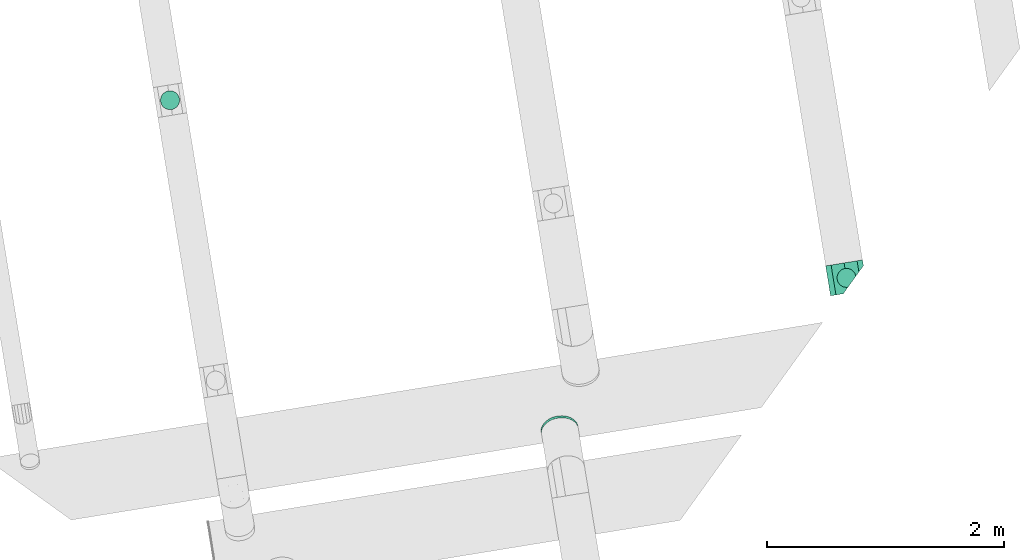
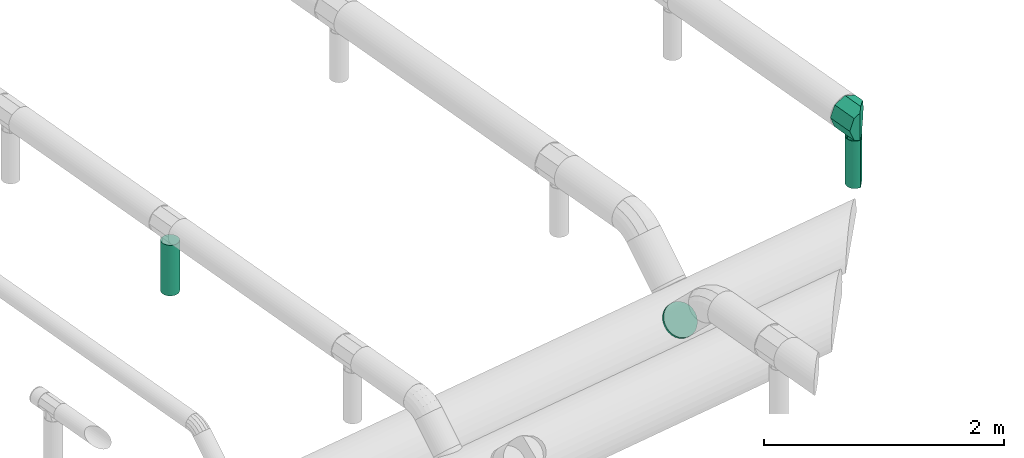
# One storey, part 12 of 15: 2 flow fittings, 2 flow segments.
"""IFC2X3 building model written with IfcOpenShell, lengths in millimetres."""

from ifc_helpers import new_model, entity, si_unit, converted_unit, derived_unit, direction, frame, origin, origin_with_axes, place, context, subcontext, project, spatial, faceted_brep, source, transform, mapped, material, type_object, element, save


model = new_model("IFC2X3")

# Units and contexts
model_context = context("Model", 3, precision=0.01, world=origin(), true_north=direction((6.12323399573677e-17, 1.0)))
plan_context = context("Plan", 3, precision=1e-05, world=origin_with_axes())
body_context = subcontext(model_context, "Body", "Model", "MODEL_VIEW")
ifc_project = project(units=[converted_unit("PLANEANGLEUNIT", "DEGREE", entity("IfcPositiveLengthMeasure", 0.0174532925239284), si_unit("PLANEANGLEUNIT", "RADIAN"), dimensions=[0, 0, 0, 0, 0, 0, 0]), si_unit("AREAUNIT", "SQUARE_METRE"), si_unit("LENGTHUNIT", "METRE", prefix="MILLI"), si_unit("MASSUNIT", "GRAM", prefix="KILO"), si_unit("POWERUNIT", "WATT"), si_unit("PRESSUREUNIT", "PASCAL", prefix="KILO"), si_unit("FORCEUNIT", "NEWTON", prefix="KILO"), si_unit("ELECTRICVOLTAGEUNIT", "VOLT"), si_unit("ELECTRICCURRENTUNIT", "AMPERE"), si_unit("THERMODYNAMICTEMPERATUREUNIT", "DEGREE_CELSIUS"), si_unit("TIMEUNIT", "SECOND"), si_unit("VOLUMEUNIT", "CUBIC_METRE"), derived_unit("LINEARVELOCITYUNIT", [(si_unit("LENGTHUNIT", "METRE"), 1), (si_unit("TIMEUNIT", "SECOND"), -1)]), derived_unit("VOLUMETRICFLOWRATEUNIT", [(si_unit("VOLUMEUNIT", "CUBIC_METRE"), 1), (si_unit("TIMEUNIT", "SECOND"), -1)]), derived_unit("THERMALTRANSMITTANCEUNIT", [(si_unit("POWERUNIT", "WATT"), 1), (si_unit("THERMODYNAMICTEMPERATUREUNIT", "KELVIN"), -1), (si_unit("AREAUNIT", "SQUARE_METRE"), -1)]), derived_unit("SOUNDPRESSUREUNIT", [(si_unit("PRESSUREUNIT", "PASCAL"), 1)])], contexts=[model_context, plan_context])

# Site, building, storey
site_placement = place(None, frame((5.09380697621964e-08, 5.80416781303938e-08, 0.0), z_axis=(0.0, 0.0, 1.0), x_axis=(-0.160806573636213, 0.986985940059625, 0.0)))
site = spatial("IfcSite", under=ifc_project, at=site_placement, Name="Default", CompositionType="ELEMENT")
building_placement = place(site_placement, frame((0.0, 0.0, 0.0), z_axis=(0.0, 0.0, 1.0), x_axis=(1.0, -2.77555756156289e-17, 0.0)))
building = spatial("IfcBuilding", under=site, at=building_placement, Name="Bygning (endres i Project Information)", CompositionType="ELEMENT")
storey_placement = place(building_placement, frame((0.0, 0.0, 51360.0000000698), z_axis=(0.0, 0.0, 1.0), x_axis=(1.0, -2.77555756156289e-17, 0.0)))
storey = spatial("IfcBuildingStorey", under=building, at=storey_placement, Name="H01-Nivå D+0,36", CompositionType="ELEMENT", Elevation=51360.0000000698)

# Flow fittings
ifc_material_1 = material(Name="3601.001 Tilluft")
duct_fitting_type_1 = type_object("IfcDuctFittingType", Name="magicirc_tapoutlet_001:magicirc_tapoutlet_001", PredefinedType="NOTDEFINED", material=ifc_material_1)
shared_shape = source(origin(), body_context, "Body", "Brep", [
    faceted_brep([(-6.09600000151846, -40.7639996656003, -152.133317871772), (-6.09600000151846, -78.7500001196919, -136.399001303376), (-6.09600000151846, -111.369318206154, -111.369318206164), (-6.09600000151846, -136.399001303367, -78.7500001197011), (-6.09600000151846, -152.133317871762, -40.7639996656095), (-6.09600000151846, -157.500000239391, 0.0), (-6.09600000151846, -152.133317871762, 40.7639996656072), (-6.09600000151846, -136.399001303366, 78.7500001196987), (-6.09600000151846, -111.369318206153, 111.369318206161), (-6.09600000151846, -78.7500001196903, 136.399001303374), (-6.09600000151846, -40.7639996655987, 152.133317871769), (-6.09600000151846, 0.0, 157.500000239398), (-6.09600000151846, 40.7639996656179, 152.133317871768), (-6.09600000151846, 78.7500001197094, 136.399001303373), (-6.09600000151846, 111.369318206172, 111.36931820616), (-6.09600000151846, 136.399001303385, 78.750000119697), (-6.09600000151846, 152.13331787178, 40.7639996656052), (-6.09600000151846, 157.50000023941, 0.0), (-6.09600000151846, 152.133317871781, -40.7639996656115), (-6.09600000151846, 136.399001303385, -78.7500001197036), (-6.09600000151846, 111.369318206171, -111.369318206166), (-6.09600000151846, 78.7500001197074, -136.399001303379), (-6.09600000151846, 40.7639996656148, -152.133317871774), (-6.09600000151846, 0.0, -157.500000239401), (0.0, -40.7639996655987, 152.133317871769), (20.0, -40.7639996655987, 152.133317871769), (20.0, 0.0, 157.500000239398), (0.0, 0.0, 157.500000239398), (0.0, -78.7500001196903, 136.399001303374), (20.0, -78.7500001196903, 136.399001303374), (0.0, -111.369318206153, 111.369318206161), (20.0, -111.369318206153, 111.369318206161), (0.0, -152.133317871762, 40.7639996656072), (20.0, -152.133317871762, 40.7639996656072), (20.0, -136.399001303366, 78.7500001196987), (0.0, -136.399001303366, 78.7500001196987), (0.0, -157.500000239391, 0.0), (20.0, -157.500000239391, 0.0), (0.0, -152.133317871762, -40.7639996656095), (20.0, -152.133317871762, -40.7639996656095), (0.0, -136.399001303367, -78.7500001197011), (20.0, -136.399001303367, -78.7500001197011), (0.0, -111.369318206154, -111.369318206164), (20.0, -111.369318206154, -111.369318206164), (0.0, 0.0, -157.500000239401), (20.0, 0.0, -157.500000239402), (20.0, -40.7639996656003, -152.133317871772), (0.0, -40.7639996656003, -152.133317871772), (20.0, -78.7500001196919, -136.399001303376), (0.0, -78.7500001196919, -136.399001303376), (0.0, 40.7639996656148, -152.133317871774), (20.0, 40.7639996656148, -152.133317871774), (0.0, 78.7500001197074, -136.399001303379), (20.0, 78.7500001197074, -136.399001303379), (0.0, 111.369318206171, -111.369318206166), (20.0, 111.369318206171, -111.369318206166), (0.0, 152.133317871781, -40.7639996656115), (20.0, 152.133317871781, -40.7639996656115), (20.0, 136.399001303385, -78.7500001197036), (0.0, 136.399001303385, -78.7500001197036), (0.0, 157.50000023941, 0.0), (20.0, 157.500000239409, 0.0), (0.0, 152.13331787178, 40.7639996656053), (20.0, 152.13331787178, 40.7639996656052), (0.0, 136.399001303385, 78.750000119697), (20.0, 136.399001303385, 78.750000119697), (0.0, 111.369318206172, 111.36931820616), (20.0, 111.369318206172, 111.36931820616), (0.0, 40.7639996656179, 152.133317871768), (20.0, 40.7639996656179, 152.133317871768), (20.0, 78.7500001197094, 136.399001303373), (0.0, 78.7500001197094, 136.399001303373)], [[[0, 1, 2, 3, 4, 5, 6, 7, 8, 9, 10, 11, 12, 13, 14, 15, 16, 17, 18, 19, 20, 21, 22, 23]], [[24, 25, 26, 27, 11, 10]], [[28, 29, 25, 24, 10, 9]], [[8, 30, 31, 29, 28, 9]], [[32, 33, 34, 35, 7, 6]], [[36, 37, 33, 32, 6, 5]], [[7, 35, 34, 31, 30, 8]], [[38, 39, 37, 36, 5, 4]], [[40, 41, 39, 38, 4, 3]], [[2, 42, 43, 41, 40, 3]], [[23, 44, 45, 46, 47, 0]], [[1, 0, 47, 46, 48, 49]], [[49, 48, 43, 42, 2, 1]], [[50, 51, 45, 44, 23, 22]], [[52, 53, 51, 50, 22, 21]], [[20, 54, 55, 53, 52, 21]], [[56, 57, 58, 59, 19, 18]], [[60, 61, 57, 56, 18, 17]], [[19, 59, 58, 55, 54, 20]], [[62, 63, 61, 60, 17, 16]], [[64, 65, 63, 62, 16, 15]], [[14, 66, 67, 65, 64, 15]], [[68, 69, 70, 71, 13, 12]], [[27, 26, 69, 68, 12, 11]], [[13, 71, 70, 67, 66, 14]], [[45, 51, 53, 55, 58, 57, 61, 63, 65, 67, 70, 69, 26, 25, 29, 31, 34, 33, 37, 39, 41, 43, 48, 46]]]),
    faceted_brep([(20.0, 0.0, -157.500000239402), (20.0, 40.7639996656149, -152.133317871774), (20.0, 78.7500001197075, -136.399001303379), (20.0, 111.369318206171, -111.369318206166), (20.0, 136.399001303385, -78.7500001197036), (20.0, 152.133317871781, -40.7639996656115), (20.0, 157.500000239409, 0.0), (20.0, 152.13331787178, 40.7639996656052), (20.0, 136.399001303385, 78.750000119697), (20.0, 111.369318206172, 111.36931820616), (20.0, 78.7500001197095, 136.399001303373), (20.0, 40.763999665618, 152.133317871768), (20.0, 0.0, 157.500000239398), (20.0, -40.7639996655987, 152.133317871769), (20.0, -78.7500001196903, 136.399001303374), (20.0, -111.369318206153, 111.369318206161), (20.0, -136.399001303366, 78.7500001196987), (20.0, -152.133317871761, 40.7639996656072), (20.0, -157.500000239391, 0.0), (20.0, -152.133317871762, -40.7639996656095), (20.0, -136.399001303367, -78.7500001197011), (20.0, -111.369318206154, -111.369318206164), (20.0, -78.7500001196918, -136.399001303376), (20.0, -40.7639996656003, -152.133317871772), (0.0, 0.0, 157.500000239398), (-6.09600000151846, 0.0, 157.500000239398), (-6.09600000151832, -40.7639996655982, 152.133317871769), (0.0, -40.7639996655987, 152.133317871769), (-6.09600000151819, -78.7500001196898, 136.399001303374), (0.0, -78.7500001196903, 136.399001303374), (0.0, -111.369318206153, 111.369318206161), (-6.09600000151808, -111.369318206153, 111.369318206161), (0.0, -136.399001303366, 78.7500001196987), (-6.096000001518, -136.399001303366, 78.7500001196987), (-6.09600000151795, -152.133317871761, 40.7639996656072), (0.0, -152.133317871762, 40.7639996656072), (-6.09600000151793, -157.50000023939, 0.0), (0.0, -157.500000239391, 0.0), (-6.09600000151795, -152.133317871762, -40.7639996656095), (0.0, -152.133317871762, -40.7639996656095), (-6.096000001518, -136.399001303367, -78.7500001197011), (0.0, -136.399001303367, -78.7500001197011), (0.0, -111.369318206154, -111.369318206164), (-6.09600000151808, -111.369318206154, -111.369318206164), (0.0, 0.0, -157.500000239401), (0.0, -40.7639996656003, -152.133317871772), (-6.09600000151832, -40.7639996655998, -152.133317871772), (-6.09600000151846, 0.0, -157.500000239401), (0.0, -78.7500001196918, -136.399001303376), (-6.09600000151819, -78.7500001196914, -136.399001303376), (-6.09600000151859, 40.7639996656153, -152.133317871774), (0.0, 40.7639996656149, -152.133317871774), (-6.09600000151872, 78.7500001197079, -136.399001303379), (0.0, 78.7500001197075, -136.399001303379), (0.0, 111.369318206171, -111.369318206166), (-6.09600000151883, 111.369318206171, -111.369318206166), (0.0, 136.399001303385, -78.7500001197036), (-6.09600000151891, 136.399001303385, -78.7500001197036), (-6.09600000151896, 152.133317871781, -40.7639996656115), (0.0, 152.133317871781, -40.7639996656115), (-6.09600000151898, 157.500000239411, 0.0), (0.0, 157.50000023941, 0.0), (-6.09600000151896, 152.13331787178, 40.7639996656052), (0.0, 152.13331787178, 40.7639996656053), (-6.09600000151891, 136.399001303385, 78.750000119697), (0.0, 136.399001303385, 78.750000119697), (0.0, 111.369318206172, 111.36931820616), (-6.09600000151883, 111.369318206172, 111.36931820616), (0.0, 78.7500001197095, 136.399001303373), (-6.09600000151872, 78.7500001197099, 136.399001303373), (-6.09600000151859, 40.7639996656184, 152.133317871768), (0.0, 40.7639996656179, 152.133317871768)], [[[0, 1, 2, 3, 4, 5, 6, 7, 8, 9, 10, 11, 12, 13, 14, 15, 16, 17, 18, 19, 20, 21, 22, 23]], [[13, 12, 24, 25, 26, 27]], [[14, 13, 27, 26, 28, 29]], [[30, 15, 14, 29, 28, 31]], [[17, 16, 32, 33, 34, 35]], [[18, 17, 35, 34, 36, 37]], [[32, 16, 15, 30, 31, 33]], [[19, 18, 37, 36, 38, 39]], [[20, 19, 39, 38, 40, 41]], [[42, 21, 20, 41, 40, 43]], [[44, 0, 23, 45, 46, 47]], [[48, 49, 46, 45, 23, 22]], [[22, 21, 42, 43, 49, 48]], [[1, 0, 44, 47, 50, 51]], [[2, 1, 51, 50, 52, 53]], [[54, 3, 2, 53, 52, 55]], [[5, 4, 56, 57, 58, 59]], [[6, 5, 59, 58, 60, 61]], [[56, 4, 3, 54, 55, 57]], [[7, 6, 61, 60, 62, 63]], [[8, 7, 63, 62, 64, 65]], [[66, 9, 8, 65, 64, 67]], [[11, 10, 68, 69, 70, 71]], [[12, 11, 71, 70, 25, 24]], [[68, 10, 9, 66, 67, 69]], [[46, 49, 43, 40, 38, 36, 34, 33, 31, 28, 26, 25, 70, 69, 67, 64, 62, 60, 58, 57, 55, 52, 50, 47]]]),
    faceted_brep([(-6.09600000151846, -40.7639996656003, -152.133317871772), (-6.09600000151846, -78.7500001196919, -136.399001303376), (-6.09600000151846, -111.369318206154, -111.369318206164), (-6.09600000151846, -136.399001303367, -78.7500001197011), (-6.09600000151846, -152.133317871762, -40.7639996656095), (-6.09600000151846, -157.500000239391, 0.0), (-6.09600000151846, -152.133317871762, 40.7639996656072), (-6.09600000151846, -136.399001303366, 78.7500001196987), (-6.09600000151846, -111.369318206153, 111.369318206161), (-6.09600000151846, -78.7500001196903, 136.399001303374), (-6.09600000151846, -40.7639996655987, 152.133317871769), (-6.09600000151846, 0.0, 157.500000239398), (-6.09600000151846, 40.7639996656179, 152.133317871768), (-6.09600000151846, 78.7500001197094, 136.399001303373), (-6.09600000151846, 111.369318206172, 111.36931820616), (-6.09600000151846, 136.399001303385, 78.750000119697), (-6.09600000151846, 152.13331787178, 40.7639996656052), (-6.09600000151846, 157.50000023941, 0.0), (-6.09600000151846, 152.133317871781, -40.7639996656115), (-6.09600000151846, 136.399001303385, -78.7500001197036), (-6.09600000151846, 111.369318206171, -111.369318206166), (-6.09600000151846, 78.7500001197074, -136.399001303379), (-6.09600000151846, 40.7639996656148, -152.133317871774), (-6.09600000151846, 0.0, -157.500000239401), (0.0, -40.7639996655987, 152.133317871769), (20.0, -40.7639996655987, 152.133317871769), (20.0, 0.0, 157.500000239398), (0.0, 0.0, 157.500000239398), (0.0, -78.7500001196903, 136.399001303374), (20.0, -78.7500001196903, 136.399001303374), (0.0, -111.369318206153, 111.369318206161), (20.0, -111.369318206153, 111.369318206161), (0.0, -152.133317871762, 40.7639996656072), (20.0, -152.133317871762, 40.7639996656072), (20.0, -136.399001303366, 78.7500001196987), (0.0, -136.399001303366, 78.7500001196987), (0.0, -157.500000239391, 0.0), (20.0, -157.500000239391, 0.0), (0.0, -152.133317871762, -40.7639996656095), (20.0, -152.133317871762, -40.7639996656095), (0.0, -136.399001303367, -78.7500001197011), (20.0, -136.399001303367, -78.7500001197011), (0.0, -111.369318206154, -111.369318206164), (20.0, -111.369318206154, -111.369318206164), (0.0, 0.0, -157.500000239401), (20.0, 0.0, -157.500000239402), (20.0, -40.7639996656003, -152.133317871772), (0.0, -40.7639996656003, -152.133317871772), (20.0, -78.7500001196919, -136.399001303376), (0.0, -78.7500001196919, -136.399001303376), (0.0, 40.7639996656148, -152.133317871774), (20.0, 40.7639996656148, -152.133317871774), (0.0, 78.7500001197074, -136.399001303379), (20.0, 78.7500001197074, -136.399001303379), (0.0, 111.369318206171, -111.369318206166), (20.0, 111.369318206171, -111.369318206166), (0.0, 152.133317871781, -40.7639996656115), (20.0, 152.133317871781, -40.7639996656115), (20.0, 136.399001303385, -78.7500001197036), (0.0, 136.399001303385, -78.7500001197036), (0.0, 157.50000023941, 0.0), (20.0, 157.500000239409, 0.0), (0.0, 152.13331787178, 40.7639996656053), (20.0, 152.13331787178, 40.7639996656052), (0.0, 136.399001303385, 78.750000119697), (20.0, 136.399001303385, 78.750000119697), (0.0, 111.369318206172, 111.36931820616), (20.0, 111.369318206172, 111.36931820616), (0.0, 40.7639996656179, 152.133317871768), (20.0, 40.7639996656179, 152.133317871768), (20.0, 78.7500001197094, 136.399001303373), (0.0, 78.7500001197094, 136.399001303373)], [[[0, 1, 2, 3, 4, 5, 6, 7, 8, 9, 10, 11, 12, 13, 14, 15, 16, 17, 18, 19, 20, 21, 22, 23]], [[24, 25, 26, 27, 11, 10]], [[28, 29, 25, 24, 10, 9]], [[8, 30, 31, 29, 28, 9]], [[32, 33, 34, 35, 7, 6]], [[36, 37, 33, 32, 6, 5]], [[7, 35, 34, 31, 30, 8]], [[38, 39, 37, 36, 5, 4]], [[40, 41, 39, 38, 4, 3]], [[2, 42, 43, 41, 40, 3]], [[23, 44, 45, 46, 47, 0]], [[1, 0, 47, 46, 48, 49]], [[49, 48, 43, 42, 2, 1]], [[50, 51, 45, 44, 23, 22]], [[52, 53, 51, 50, 22, 21]], [[20, 54, 55, 53, 52, 21]], [[56, 57, 58, 59, 19, 18]], [[60, 61, 57, 56, 18, 17]], [[19, 59, 58, 55, 54, 20]], [[62, 63, 61, 60, 17, 16]], [[64, 65, 63, 62, 16, 15]], [[14, 66, 67, 65, 64, 15]], [[68, 69, 70, 71, 13, 12]], [[27, 26, 69, 68, 12, 11]], [[13, 71, 70, 67, 66, 14]], [[45, 51, 53, 55, 58, 57, 61, 63, 65, 67, 70, 69, 26, 25, 29, 31, 34, 33, 37, 39, 41, 43, 48, 46]]]),
])
flow_fitting_1_placement = place(storey_placement, frame((994937.543042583, -342925.651094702, 3372.738656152), z_axis=(-0.707106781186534, 1.96261557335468e-17, -0.707106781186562), x_axis=(-0.707106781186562, 1.38777878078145e-17, 0.707106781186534)))
element("IfcFlowFitting", 1, at=flow_fitting_1_placement, inside=storey, type_object=duct_fitting_type_1, material=ifc_material_1, Name="magicirc_tapoutlet_001:magicirc_tapoutlet_001", ObjectType="magicirc_tapoutlet_001:magicirc_tapoutlet_001", context=body_context, shape_type="MappedRepresentation", body=[
    mapped(shared_shape, transform((0.0, 0.0, 0.0), scale=1.0)),
])
ifc_material_2 = material(Name="DF_Material1")
duct_fitting_type_2 = type_object("IfcDuctFittingType", Name="Lindab TCPU:TCPU", PredefinedType="NOTDEFINED", material=ifc_material_2)
flow_fitting_2_placement = place(storey_placement, frame((995812.558907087, -345524.100723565, 3804.29489743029), z_axis=(2.77555756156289e-17, 1.0, 0.0), x_axis=(-1.0, 2.77555756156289e-17, 0.0)))
element("IfcFlowFitting", 2, at=flow_fitting_2_placement, inside=storey, type_object=duct_fitting_type_2, Name="Lindab TCPU:TCPU", ObjectType="Lindab TCPU:TCPU", context=body_context, shape_type="Brep", body=[
    faceted_brep([(79.7802037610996, -182.0, 0.530635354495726), (-0.530635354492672, -182.0, -79.7802037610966), (-56.568542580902, -182.0, -56.5685425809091), (-80.0000001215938, -182.0, 0.0), (-56.5685425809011, -182.0, 56.5685425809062), (0.0, -182.0, 80.0000001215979), (56.5685425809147, -182.0, 56.5685425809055), (-61.1652823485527, -148.820166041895, 51.5636330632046), (0.0, -135.66963571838, 80.0000001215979), (-80.0000001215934, -157.500000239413, 0.0), (-51.4607662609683, -145.101552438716, -61.2518534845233), (-0.550041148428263, -181.60560897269, -79.7996095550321), (-0.550041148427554, -135.770449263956, -79.7996095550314), (79.7802037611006, -157.729819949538, 0.530635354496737), (79.7615039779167, -157.396385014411, 0.511935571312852), (51.4669231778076, -145.103736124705, 61.2466802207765), (-128.0, -134.434659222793, -55.6846591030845), (-128.0, -111.369318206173, -111.369318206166), (-128.0, 0.0, -157.500000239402), (-128.0, 111.369318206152, -111.369318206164), (-128.0, 157.500000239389, 0.0), (-128.0, 111.369318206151, 111.369318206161), (-128.0, 0.0, 157.500000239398), (-128.0, -111.369318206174, 111.36931820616), (-128.0, -134.434659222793, 55.6846591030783), (-128.0, -157.500000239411, 0.0), (128.0, 137.306910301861, 48.7504315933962), (128.0, -137.306910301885, 48.7504315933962), (128.0, -111.369318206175, 111.36931820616), (128.0, 0.0, 157.500000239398), (128.0, 111.36931820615, 111.369318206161), (79.2495684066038, 157.500000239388, 0.0), (-32.1197497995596, 111.369318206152, -111.369318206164), (-78.250431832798, 0.0, -157.500000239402), (-32.1197497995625, -111.369318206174, -111.369318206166), (-0.994045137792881, -135.480919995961, -80.2436135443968), (84.6873546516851, -155.247595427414, 5.43778624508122), (128.0, -134.434659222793, 55.6846591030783)], [[[0, 1, 2, 3, 4, 5, 6]], [[4, 7, 5]], [[8, 5, 7]], [[4, 3, 9]], [[7, 4, 9]], [[3, 2, 9]], [[10, 9, 2]], [[11, 12, 10]], [[1, 11, 10, 2]], [[13, 0, 6]], [[14, 13, 6, 15]], [[5, 8, 15]], [[6, 5, 15]], [[16, 17, 18, 19, 20, 21, 22, 23, 24, 25]], [[26, 27, 28, 29, 30]], [[30, 29, 22, 21]], [[31, 26, 30, 21, 20]], [[32, 31, 20, 19]], [[33, 32, 19, 18]], [[34, 33, 18, 17]], [[35, 34, 17]], [[12, 35, 17, 10]], [[17, 16, 10]], [[10, 16, 9]], [[16, 25, 9]], [[36, 14, 15, 37]], [[37, 15, 28]], [[28, 15, 8]], [[8, 23, 28]], [[8, 7, 23]], [[24, 23, 7, 25]], [[7, 9, 25]], [[29, 28, 23, 22]], [[27, 36, 37]], [[13, 14, 36, 27, 26, 31, 32, 33, 34, 35, 12, 11, 1, 0]]], orient=[[False], [False], [False], [False], [False], [False], [False], [False], [False], [False], [False], [False], [False], [False], [False], [False], [False], [False], [False], [False], [False], [False], [False], [False], [False], [False], [False], [False], [False], [False], [False], [False], [False], [False], [False]]),
])

# Flow segments
duct_segment_type = type_object("IfcDuctSegmentType", Name="Round Duct:Sirkulær kanal", PredefinedType="NOTDEFINED", material=ifc_material_1)
flow_segment_1_placement = place(storey_placement, frame((0.0, 0.0, 0.0), z_axis=(0.0, 0.0, 1.0), x_axis=(1.0, -2.77555756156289e-17, 0.0)))
element("IfcFlowSegment", 3, at=flow_segment_1_placement, inside=storey, type_object=duct_segment_type, Name="Round Duct:Sirkulær kanal", ObjectType="Round Duct:Sirkulær kanal", context=body_context, shape_type="Brep", body=[
    faceted_brep([(998213.187354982, -340204.100723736, 3139.99999993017), (998199.295500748, -340202.885343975, 3139.99999993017), (998199.295500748, -340202.885343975, 3654.29489743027), (998213.187354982, -340204.100723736, 3654.29489743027), (998227.079209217, -340202.885343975, 3139.99999993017), (998227.079209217, -340202.885343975, 3654.29489743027), (998240.548966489, -340199.276133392, 3139.99999993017), (998240.54896649, -340199.276133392, 3654.29489743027), (998253.187355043, -340193.382756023, 3139.99999993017), (998253.187355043, -340193.382756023, 3654.29489743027), (998264.610363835, -340185.384279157, 3139.99999993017), (998264.610363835, -340185.384279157, 3654.29489743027), (998274.470910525, -340175.523732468, 3139.99999993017), (998274.470910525, -340175.523732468, 3654.29489743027), (998282.46938739, -340164.100723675, 3139.99999993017), (998282.46938739, -340164.100723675, 3654.29489743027), (998288.362764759, -340151.462335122, 3139.99999993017), (998288.362764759, -340151.462335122, 3654.29489743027), (998291.971975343, -340137.992577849, 3139.99999993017), (998291.971975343, -340137.992577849, 3654.29489743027), (998293.187355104, -340124.100723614, 3139.99999993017), (998293.187355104, -340124.100723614, 3654.29489743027), (998291.971975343, -340110.20886938, 3139.99999993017), (998291.971975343, -340110.20886938, 3654.29489743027), (998288.362764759, -340096.739112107, 3139.99999993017), (998288.362764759, -340096.739112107, 3654.29489743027), (998282.46938739, -340084.100723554, 3139.99999993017), (998282.46938739, -340084.100723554, 3654.29489743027), (998274.470910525, -340072.677714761, 3139.99999993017), (998274.470910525, -340072.677714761, 3654.29489743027), (998264.610363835, -340062.817168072, 3139.99999993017), (998264.610363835, -340062.817168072, 3654.29489743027), (998253.187355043, -340054.818691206, 3139.99999993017), (998253.187355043, -340054.818691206, 3654.29489743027), (998240.548966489, -340048.925313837, 3139.99999993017), (998240.54896649, -340048.925313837, 3654.29489743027), (998227.079209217, -340045.316103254, 3139.99999993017), (998227.079209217, -340045.316103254, 3654.29489743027), (998213.187354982, -340044.100723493, 3139.99999993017), (998213.187354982, -340044.100723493, 3654.29489743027), (998199.295500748, -340045.316103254, 3139.99999993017), (998199.295500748, -340045.316103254, 3654.29489743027), (998185.825743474, -340048.925313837, 3139.99999993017), (998185.825743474, -340048.925313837, 3654.29489743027), (998173.187354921, -340054.818691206, 3139.99999993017), (998173.187354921, -340054.818691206, 3654.29489743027), (998161.764346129, -340062.817168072, 3139.99999993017), (998161.764346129, -340062.817168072, 3654.29489743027), (998151.903799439, -340072.677714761, 3139.99999993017), (998151.903799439, -340072.677714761, 3654.29489743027), (998143.905322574, -340084.100723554, 3139.99999993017), (998143.905322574, -340084.100723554, 3654.29489743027), (998138.011945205, -340096.739112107, 3139.99999993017), (998138.011945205, -340096.739112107, 3654.29489743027), (998134.402734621, -340110.20886938, 3139.99999993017), (998134.402734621, -340110.20886938, 3654.29489743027), (998133.18735486, -340124.100723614, 3139.99999993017), (998133.18735486, -340124.100723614, 3654.29489743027), (998134.402734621, -340137.992577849, 3139.99999993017), (998134.402734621, -340137.992577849, 3654.29489743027), (998138.011945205, -340151.462335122, 3139.99999993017), (998138.011945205, -340151.462335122, 3654.29489743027), (998143.905322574, -340164.100723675, 3139.99999993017), (998143.905322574, -340164.100723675, 3654.29489743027), (998151.903799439, -340175.523732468, 3139.99999993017), (998151.903799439, -340175.523732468, 3654.29489743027), (998161.764346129, -340185.384279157, 3139.99999993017), (998161.764346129, -340185.384279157, 3654.29489743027), (998173.187354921, -340193.382756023, 3139.99999993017), (998173.187354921, -340193.382756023, 3654.29489743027), (998185.825743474, -340199.276133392, 3139.99999993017), (998185.825743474, -340199.276133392, 3654.29489743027)], [[[0, 1, 2, 3]], [[4, 0, 3, 5]], [[6, 4, 5, 7]], [[8, 6, 7, 9]], [[10, 8, 9, 11]], [[12, 10, 11, 13]], [[14, 12, 13, 15]], [[16, 14, 15, 17]], [[18, 16, 17, 19]], [[20, 18, 19, 21]], [[22, 20, 21, 23]], [[24, 22, 23, 25]], [[26, 24, 25, 27]], [[28, 26, 27, 29]], [[30, 28, 29, 31]], [[32, 30, 31, 33]], [[34, 32, 33, 35]], [[36, 34, 35, 37]], [[38, 36, 37, 39]], [[40, 38, 39, 41]], [[42, 40, 41, 43]], [[44, 42, 43, 45]], [[46, 44, 45, 47]], [[48, 46, 47, 49]], [[50, 48, 49, 51]], [[52, 50, 51, 53]], [[54, 52, 53, 55]], [[56, 54, 55, 57]], [[58, 56, 57, 59]], [[60, 58, 59, 61]], [[62, 60, 61, 63]], [[64, 62, 63, 65]], [[66, 64, 65, 67]], [[68, 66, 67, 69]], [[70, 68, 69, 71]], [[1, 70, 71, 2]], [[3, 2, 71, 69, 67, 65, 63, 61, 59, 57, 55, 53, 51, 49, 47, 45, 43, 41, 39, 37, 35, 33, 31, 29, 27, 25, 23, 21, 19, 17, 15, 13, 11, 9, 7, 5]], [[4, 6, 8, 10, 12, 14, 16, 18, 20, 22, 24, 26, 28, 30, 32, 34, 36, 38, 40, 42, 44, 46, 48, 50, 52, 54, 56, 58, 60, 62, 64, 66, 68, 70, 1, 0]]], orient=[[False], [False], [False], [False], [False], [False], [False], [False], [False], [False], [False], [False], [False], [False], [False], [False], [False], [False], [False], [False], [False], [False], [False], [False], [False], [False], [False], [False], [False], [False], [False], [False], [False], [False], [False], [False], [False], [False]]),
])
flow_segment_2_placement = place(storey_placement, frame((0.0, 0.0, 0.0), z_axis=(0.0, 0.0, 1.0), x_axis=(1.0, -2.77555756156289e-17, 0.0)))
element("IfcFlowSegment", 4, at=flow_segment_2_placement, inside=storey, type_object=duct_segment_type, Name="Round Duct:Sirkulær kanal", ObjectType="Round Duct:Sirkulær kanal", context=body_context, shape_type="Brep", body=[
    faceted_brep([(995812.558907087, -345444.100723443, 3139.99999993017), (995826.450761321, -345445.316103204, 3139.99999993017), (995826.450761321, -345445.316103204, 3622.29489743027), (995812.558907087, -345444.100723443, 3622.29489743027), (995798.667052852, -345445.316103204, 3139.99999993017), (995798.667052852, -345445.316103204, 3622.29489743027), (995785.197295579, -345448.925313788, 3139.99999993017), (995785.197295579, -345448.925313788, 3622.29489743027), (995772.558907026, -345454.818691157, 3139.99999993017), (995772.558907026, -345454.818691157, 3622.29489743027), (995761.135898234, -345462.817168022, 3139.99999993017), (995761.135898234, -345462.817168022, 3622.29489743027), (995751.275351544, -345472.677714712, 3139.99999993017), (995751.275351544, -345472.677714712, 3622.29489743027), (995743.276874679, -345484.100723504, 3139.99999993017), (995743.276874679, -345484.100723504, 3622.29489743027), (995737.38349731, -345496.739112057, 3139.99999993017), (995737.38349731, -345496.739112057, 3622.29489743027), (995733.774286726, -345510.208869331, 3139.99999993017), (995733.774286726, -345510.208869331, 3622.29489743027), (995732.619279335, -345523.41066422, 3622.29489743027), (995732.619279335, -345523.41066422, 3139.99999993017), (995826.450761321, -345602.885343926, 3139.99999993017), (995813.248966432, -345604.040351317, 3139.99999993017), (995813.248966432, -345604.040351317, 3622.29489743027), (995826.450761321, -345602.885343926, 3622.29489743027), (995839.920518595, -345599.276133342, 3139.99999993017), (995839.920518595, -345599.276133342, 3622.29489743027), (995852.558907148, -345593.382755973, 3139.99999993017), (995852.558907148, -345593.382755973, 3622.29489743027), (995863.98191594, -345585.384279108, 3139.99999993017), (995863.98191594, -345585.384279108, 3622.29489743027), (995873.84246263, -345575.523732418, 3139.99999993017), (995873.84246263, -345575.523732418, 3622.29489743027), (995881.840939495, -345564.100723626, 3139.99999993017), (995881.840939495, -345564.100723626, 3622.29489743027), (995887.734316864, -345551.462335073, 3139.99999993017), (995887.734316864, -345551.462335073, 3622.29489743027), (995891.343527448, -345537.992577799, 3139.99999993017), (995891.343527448, -345537.992577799, 3622.29489743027), (995892.558907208, -345524.100723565, 3139.99999993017), (995892.558907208, -345524.100723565, 3622.29489743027), (995891.343527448, -345510.208869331, 3139.99999993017), (995891.343527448, -345510.208869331, 3622.29489743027), (995887.734316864, -345496.739112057, 3139.99999993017), (995887.734316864, -345496.739112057, 3622.29489743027), (995881.840939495, -345484.100723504, 3139.99999993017), (995881.840939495, -345484.100723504, 3622.29489743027), (995873.84246263, -345472.677714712, 3139.99999993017), (995873.84246263, -345472.677714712, 3622.29489743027), (995863.98191594, -345462.817168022, 3139.99999993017), (995863.98191594, -345462.817168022, 3622.29489743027), (995852.558907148, -345454.818691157, 3139.99999993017), (995852.558907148, -345454.818691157, 3622.29489743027), (995839.920518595, -345448.925313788, 3139.99999993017), (995839.920518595, -345448.925313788, 3622.29489743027)], [[[0, 1, 2, 3]], [[4, 0, 3, 5]], [[6, 4, 5, 7]], [[8, 6, 7, 9]], [[10, 8, 9, 11]], [[12, 10, 11, 13]], [[14, 12, 13, 15]], [[16, 14, 15, 17]], [[18, 16, 17, 19]], [[20, 21, 18, 19]], [[22, 23, 24, 25]], [[26, 22, 25, 27]], [[28, 26, 27, 29]], [[30, 28, 29, 31]], [[32, 30, 31, 33]], [[34, 32, 33, 35]], [[36, 34, 35, 37]], [[38, 36, 37, 39]], [[40, 38, 39, 41]], [[42, 40, 41, 43]], [[44, 42, 43, 45]], [[46, 44, 45, 47]], [[48, 46, 47, 49]], [[50, 48, 49, 51]], [[52, 50, 51, 53]], [[54, 52, 53, 55]], [[1, 54, 55, 2]], [[24, 20, 19, 17, 15, 13, 11, 9, 7, 5, 3, 2, 55, 53, 51, 49, 47, 45, 43, 41, 39, 37, 35, 33, 31, 29, 27, 25]], [[21, 20, 24, 23]], [[23, 22, 26, 28, 30, 32, 34, 36, 38, 40, 42, 44, 46, 48, 50, 52, 54, 1, 0, 4, 6, 8, 10, 12, 14, 16, 18, 21]]], orient=[[False], [False], [False], [False], [False], [False], [False], [False], [False], [False], [False], [False], [False], [False], [False], [False], [False], [False], [False], [False], [False], [False], [False], [False], [False], [False], [False], [False], [False], [False]]),
])

save(model, "model.ifc")
